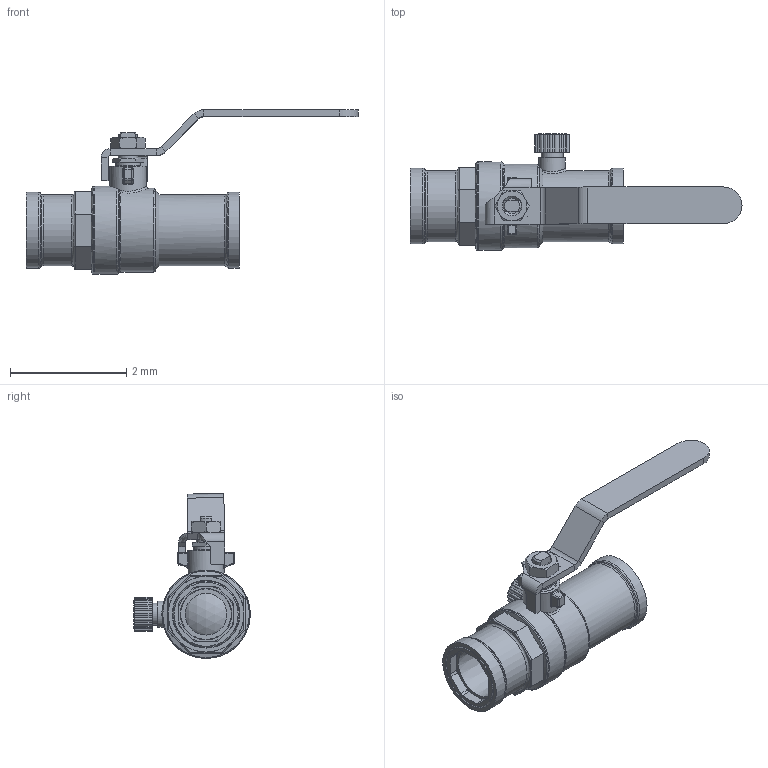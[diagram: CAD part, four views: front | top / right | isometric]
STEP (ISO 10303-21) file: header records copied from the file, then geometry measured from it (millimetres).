
FILE_DESCRIPTION(('Open CASCADE Model'),'2;1');
FILE_NAME('Open CASCADE Shape Model','2022-08-11T10:09:35',('Author'),( 'Open CASCADE'),'Open CASCADE STEP processor 7.3','Open CASCADE 7.3' ,'Unknown');
FILE_SCHEMA(('AUTOMOTIVE_DESIGN { 1 0 10303 214 1 1 1 1 }'));
Length unit declared in the file: millimetre
Products named in the file (24): Open CASCADE STEP translator 7.3 1; Open CASCADE STEP translator 7.3 1.1; Open CASCADE STEP translator 7.3 1.2; Open CASCADE STEP translator 7.3 1.3; Open CASCADE STEP translator 7.3 1.3.1; Open CASCADE STEP translator 7.3 1.3.2; Open CASCADE STEP translator 7.3 1.3.3; Open CASCADE STEP translator 7.3 1.4; Open CASCADE STEP translator 7.3 1.5; Open CASCADE STEP translator 7.3 1.6; Open CASCADE STEP translator 7.3 1.7; Open CASCADE STEP translator 7.3 1.8; Open CASCADE STEP translator 7.3 1.9; Open CASCADE STEP translator 7.3 1.10; Open CASCADE STEP translator 7.3 1.11; Open CASCADE STEP translator 7.3 1.12; Open CASCADE STEP translator 7.3 1.13; Open CASCADE STEP translator 7.3 1.14; Open CASCADE STEP translator 7.3 1.15; Open CASCADE STEP translator 7.3 1.16; Open CASCADE STEP translator 7.3 1.17; Open CASCADE STEP translator 7.3 1.18; Open CASCADE STEP translator 7.3 1.19; Open CASCADE STEP translator 7.3 1.20
Assembly tree (23 placements, depth 3):
  Open CASCADE STEP translator 7.3 1
    Open CASCADE STEP translator 7.3 1.1
    Open CASCADE STEP translator 7.3 1.2
    Open CASCADE STEP translator 7.3 1.3
      Open CASCADE STEP translator 7.3 1.3.1
      Open CASCADE STEP translator 7.3 1.3.2
      Open CASCADE STEP translator 7.3 1.3.3
    Open CASCADE STEP translator 7.3 1.4
    Open CASCADE STEP translator 7.3 1.5
    Open CASCADE STEP translator 7.3 1.6
    Open CASCADE STEP translator 7.3 1.7
    Open CASCADE STEP translator 7.3 1.8
    Open CASCADE STEP translator 7.3 1.9
    Open CASCADE STEP translator 7.3 1.10
    Open CASCADE STEP translator 7.3 1.11
    Open CASCADE STEP translator 7.3 1.12
    Open CASCADE STEP translator 7.3 1.13
    Open CASCADE STEP translator 7.3 1.14
    Open CASCADE STEP translator 7.3 1.15
    Open CASCADE STEP translator 7.3 1.16
    Open CASCADE STEP translator 7.3 1.17
    Open CASCADE STEP translator 7.3 1.18
    Open CASCADE STEP translator 7.3 1.19
    Open CASCADE STEP translator 7.3 1.20
Bounding box: 5.7 x 2 x 2.83 mm (x, y, z)
Volume: 3.7 mm3; surface area: 74.8 mm2
Topology: 22 solids, 22 shells, 414 faces, 1038 edges, 684 vertices
Faces by surface type: cylinder 155, plane 148, cone 53, torus 32, bspline 14, sphere 12
Full cylindrical faces by diameter (mm): 0.004 x1, 0.079 x1, 0.126 x1, 0.26 x1, 0.28 x1, 0.284 x2, 0.335 x2, 0.339 x2, 0.343 x1, 0.375 x1, 0.394 x1, 0.414 x1, 0.426 x1, 0.445 x1, 0.453 x2, 0.473 x1, 0.591 x1, 0.63 x1, 0.717 x2, 0.788 x5, 0.946 x2, 0.965 x1, 1.04 x1, 1.064 x5, 1.083 x1, 1.103 x1, 1.143 x2, 1.221 x2, 1.268 x1, 1.28 x1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
Entity records: 35278 total; most frequent: CARTESIAN_POINT 14718, DIRECTION 3752, ORIENTED_EDGE 2076, PCURVE 2076, DEFINITIONAL_REPRESENTATION 2076, LINE 1724, VECTOR 1724, EDGE_CURVE 1038
